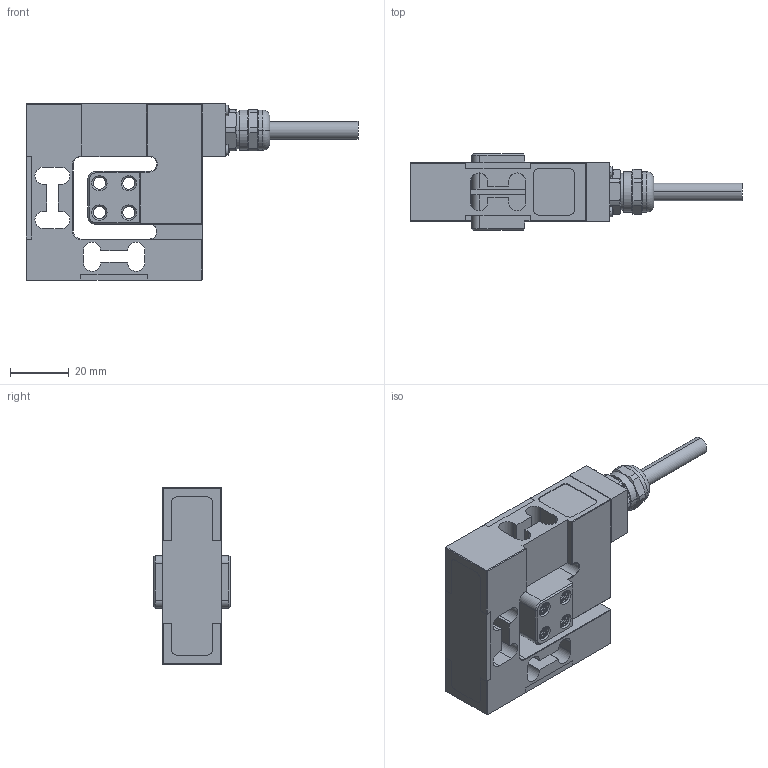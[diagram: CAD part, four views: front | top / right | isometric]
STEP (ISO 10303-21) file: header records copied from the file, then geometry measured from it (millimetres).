
FILE_DESCRIPTION (( 'STEP AP203' ), '1' );
FILE_NAME ('LCM02.STEP', '2024-07-16T03:30:33', ( '' ), ( '' ), 'SwSTEP 2.0', 'SolidWorks 2019', '' );
FILE_SCHEMA (( 'CONFIG_CONTROL_DESIGN' ));
Length unit declared in the file: millimetre
Products named in the file (1): LCM02
Bounding box: 113 x 26 x 60 mm (x, y, z)
Volume: 58009.4 mm3; surface area: 29808.1 mm2
Topology: 5 solids, 5 shells, 598 faces, 1635 edges, 1056 vertices
Faces by surface type: cylinder 316, plane 220, bspline 28, cone 26, torus 8
Entity records: 35726 total; most frequent: CARTESIAN_POINT 21908, ORIENTED_EDGE 3270, DIRECTION 2483, EDGE_CURVE 1635, VERTEX_POINT 1056, LINE 885, VECTOR 885, AXIS2_PLACEMENT_3D 799
